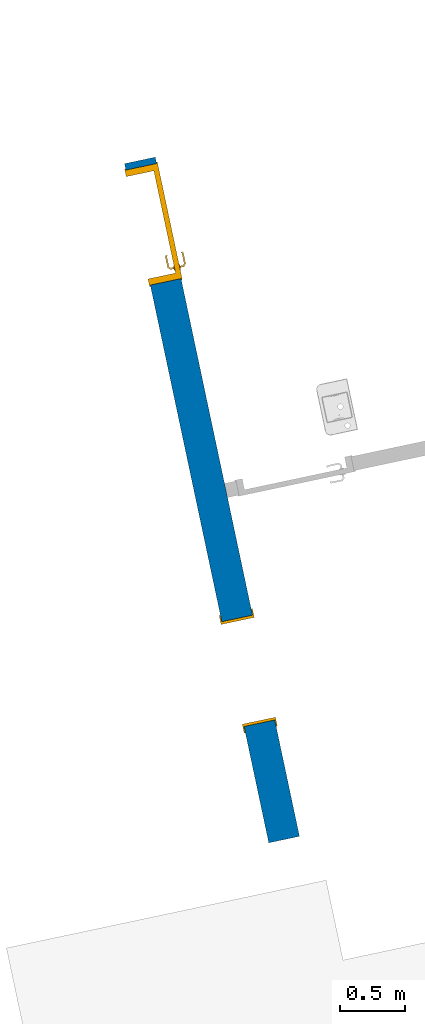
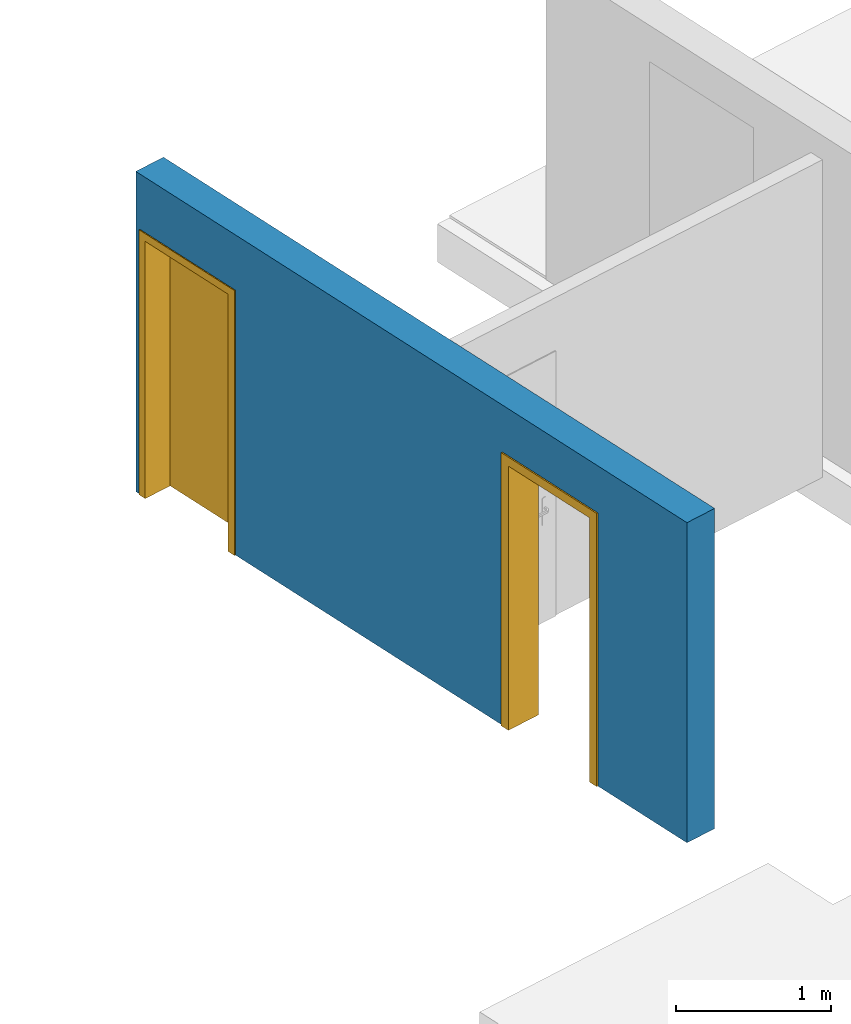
"""IFC2X3 building model written with IfcOpenShell, lengths in centimetres."""

from ifc_helpers import new_model, entity, si_unit, converted_unit, derived_unit, direction, frame, frame_2d, origin, place, context, subcontext, project, spatial, rectangle, extrude, faceted_brep, source, transform, mapped, material, layer, layer_set, type_object, type_shapes, element, fill, save


model = new_model("IFC2X3")

# Units and contexts
model_context = context("Model", 3, precision=0.001, world=origin(), true_north=direction((6.12303176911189e-17, 1.0)))
body_context = subcontext(model_context, "Body", "Model", "MODEL_VIEW")
ifc_project = project(units=[si_unit("LENGTHUNIT", "METRE", prefix="CENTI"), si_unit("AREAUNIT", "SQUARE_METRE"), si_unit("VOLUMEUNIT", "CUBIC_METRE"), converted_unit("PLANEANGLEUNIT", "DEGREE", entity("IfcRatioMeasure", 0.0174532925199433), si_unit("PLANEANGLEUNIT", "RADIAN"), dimensions=[0, 0, 0, 0, 0, 0, 0]), si_unit("MASSUNIT", "GRAM", prefix="KILO"), derived_unit("MASSDENSITYUNIT", [(si_unit("MASSUNIT", "GRAM", prefix="KILO"), 1), (si_unit("LENGTHUNIT", "METRE"), -3)]), derived_unit("IONCONCENTRATIONUNIT", [(si_unit("MASSUNIT", "GRAM", prefix="KILO"), 1), (si_unit("LENGTHUNIT", "METRE"), -3)]), derived_unit("MOMENTOFINERTIAUNIT", [(si_unit("LENGTHUNIT", "METRE"), 4)]), si_unit("TIMEUNIT", "SECOND"), si_unit("FREQUENCYUNIT", "HERTZ"), si_unit("THERMODYNAMICTEMPERATUREUNIT", "DEGREE_CELSIUS"), derived_unit("THERMALTRANSMITTANCEUNIT", [(si_unit("MASSUNIT", "GRAM", prefix="KILO"), 1), (si_unit("THERMODYNAMICTEMPERATUREUNIT", "KELVIN"), -1), (si_unit("TIMEUNIT", "SECOND"), -3)]), derived_unit("THERMALCONDUCTANCEUNIT", [(si_unit("MASSUNIT", "GRAM", prefix="KILO"), 1), (si_unit("THERMODYNAMICTEMPERATUREUNIT", "KELVIN"), -1), (si_unit("TIMEUNIT", "SECOND"), -3), (si_unit("LENGTHUNIT", "METRE"), 1)]), derived_unit("VOLUMETRICFLOWRATEUNIT", [(si_unit("LENGTHUNIT", "METRE"), 3), (si_unit("TIMEUNIT", "SECOND"), -1)]), derived_unit("MASSFLOWRATEUNIT", [(si_unit("MASSUNIT", "GRAM", prefix="KILO"), 1), (si_unit("TIMEUNIT", "SECOND"), -1)]), derived_unit("ROTATIONALFREQUENCYUNIT", [(si_unit("TIMEUNIT", "SECOND"), -1)]), si_unit("ELECTRICCURRENTUNIT", "AMPERE"), si_unit("ELECTRICVOLTAGEUNIT", "VOLT"), si_unit("POWERUNIT", "WATT"), si_unit("FORCEUNIT", "NEWTON", prefix="KILO"), si_unit("ILLUMINANCEUNIT", "LUX"), si_unit("LUMINOUSFLUXUNIT", "LUMEN"), si_unit("LUMINOUSINTENSITYUNIT", "CANDELA"), derived_unit("USERDEFINED", [(si_unit("MASSUNIT", "GRAM", prefix="KILO"), -1), (si_unit("LENGTHUNIT", "METRE"), -2), (si_unit("TIMEUNIT", "SECOND"), 3), (si_unit("LUMINOUSFLUXUNIT", "LUMEN"), 1)]), derived_unit("USERDEFINED", [(si_unit("MASSUNIT", "GRAM", prefix="KILO"), 1), (si_unit("TIMEUNIT", "SECOND"), -3), (si_unit("LENGTHUNIT", "METRE"), 3), (si_unit("ELECTRICCURRENTUNIT", "AMPERE"), -2)]), derived_unit("SOUNDPOWERUNIT", [(si_unit("MASSUNIT", "GRAM", prefix="KILO"), 1), (si_unit("TIMEUNIT", "SECOND"), -3), (si_unit("LENGTHUNIT", "METRE"), 2)]), derived_unit("SOUNDPRESSUREUNIT", [(si_unit("MASSUNIT", "GRAM", prefix="KILO"), 1), (si_unit("LENGTHUNIT", "METRE"), -1), (si_unit("TIMEUNIT", "SECOND"), -2)]), derived_unit("LINEARVELOCITYUNIT", [(si_unit("LENGTHUNIT", "METRE"), 1), (si_unit("TIMEUNIT", "SECOND"), -1)]), si_unit("PRESSUREUNIT", "PASCAL"), derived_unit("USERDEFINED", [(si_unit("MASSUNIT", "GRAM", prefix="KILO"), 1), (si_unit("LENGTHUNIT", "METRE"), -2), (si_unit("TIMEUNIT", "SECOND"), -2)]), derived_unit("LINEARFORCEUNIT", [(si_unit("MASSUNIT", "GRAM", prefix="KILO"), 1), (si_unit("TIMEUNIT", "SECOND"), -2)]), derived_unit("PLANARFORCEUNIT", [(si_unit("MASSUNIT", "GRAM", prefix="KILO"), 1), (si_unit("LENGTHUNIT", "METRE"), -1), (si_unit("TIMEUNIT", "SECOND"), -2)]), derived_unit("SPECIFICHEATCAPACITYUNIT", [(si_unit("THERMODYNAMICTEMPERATUREUNIT", "KELVIN"), -1), (si_unit("LENGTHUNIT", "METRE"), 2), (si_unit("TIMEUNIT", "SECOND"), -2)]), derived_unit("HEATINGVALUEUNIT", [(si_unit("LENGTHUNIT", "METRE"), 2), (si_unit("TIMEUNIT", "SECOND"), -2)]), derived_unit("VAPORPERMEABILITYUNIT", [(si_unit("LENGTHUNIT", "METRE"), -1), (si_unit("TIMEUNIT", "SECOND"), 1)]), derived_unit("DYNAMICVISCOSITYUNIT", [(si_unit("MASSUNIT", "GRAM", prefix="KILO"), 1), (si_unit("TIMEUNIT", "SECOND"), -1), (si_unit("LENGTHUNIT", "METRE"), -1)]), derived_unit("THERMALEXPANSIONCOEFFICIENTUNIT", [(si_unit("THERMODYNAMICTEMPERATUREUNIT", "KELVIN"), -1)]), derived_unit("MODULUSOFELASTICITYUNIT", [(si_unit("MASSUNIT", "GRAM", prefix="KILO"), 1), (si_unit("LENGTHUNIT", "METRE"), -1), (si_unit("TIMEUNIT", "SECOND"), -2)]), derived_unit("ISOTHERMALMOISTURECAPACITYUNIT", [(si_unit("LENGTHUNIT", "METRE"), 3), (si_unit("MASSUNIT", "GRAM", prefix="KILO"), -1)]), derived_unit("MOISTUREDIFFUSIVITYUNIT", [(si_unit("TIMEUNIT", "SECOND"), -1), (si_unit("LENGTHUNIT", "METRE"), 2)])], contexts=[model_context])

# Site, building, storey
site_placement = place(None, frame((14083.8920177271, -6853.25409548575, 6900.0), z_axis=(0.0, 0.0, 1.0), x_axis=(0.978188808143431, 0.207717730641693, 0.0)))
site = spatial("IfcSite", under=ifc_project, at=site_placement, Name="Surface", CompositionType="ELEMENT")
building_placement = place(site_placement, origin())
building = spatial("IfcBuilding", under=site, at=building_placement, CompositionType="ELEMENT")
storey_1_placement = place(building_placement, origin())
storey_1 = spatial("IfcBuildingStorey", under=building, at=storey_1_placement, Name="_Rez de chaussée Séjour", CompositionType="ELEMENT", Elevation=2.07727662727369e-10)

# Wall, openings
ifc_material_1 = material(Name="__ ENDUIT_Blanc")
ifc_layer_1 = layer(ifc_material_1, 2.0)
ifc_material_2 = material(Name="Béton, précoulé")
ifc_layer_2 = layer(ifc_material_2, 20.0)
ifc_layer_3 = layer(ifc_material_1, 2.0)
ifc_layer_set = layer_set([ifc_layer_1, ifc_layer_2, ifc_layer_3], Name="Mur de base:*BRIQUE 24 (20 + INT 2 + EXT 2) (enduit 2 faces)")
wall_type = type_object("IfcWallType", Name="Mur de base:*BRIQUE 24 (20 + INT 2 + EXT 2) (enduit 2 faces)", PredefinedType="STANDARD", material=ifc_layer_set)
wall_placement = place(storey_1_placement, frame((-7151.9551432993, 15413.9391445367, 17.0), z_axis=(0.0, 0.0, 1.0), x_axis=(0.0, -1.0, 0.0)))
wall = element("IfcWall", 1, at=wall_placement, inside=storey_1, type_object=wall_type, Name="Mur de base:*BRIQUE 24 (20 + INT 2 + EXT 2) (enduit 2 faces)", ObjectType="Mur de base:*BRIQUE 24 (20 + INT 2 + EXT 2) (enduit 2 faces)", context=body_context, shape_type="Brep", body=[
    faceted_brep([(531.266666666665, -12.0, 252.0), (0.0, -12.0, 252.0), (0.0, -12.0, 0.0), (5.0, -12.0, 0.0), (5.0, -12.0, 207.5), (95.0, -12.0, 207.5), (95.0, -12.0, 0.0), (358.266666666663, -12.0, 0.0), (358.266666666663, -12.0, 210.0), (440.266666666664, -12.0, 210.0), (440.266666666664, -12.0, 0.0), (531.266666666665, -12.0, 0.0), (0.0, 12.0, 252.0), (531.266666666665, 12.0, 252.0), (531.266666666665, 12.0, 0.0), (440.266666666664, 12.0, 0.0), (440.266666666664, 12.0, 210.0), (358.266666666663, 12.0, 210.0), (358.266666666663, 12.0, 0.0), (95.0, 12.0, 0.0), (95.0, 12.0, 207.5), (5.0, 12.0, 207.5), (5.0, 12.0, 0.0), (0.0, 12.0, 0.0)], [[[0, 1, 2, 3, 4, 5, 6, 7, 8, 9, 10, 11]], [[12, 13, 14, 15, 16, 17, 18, 19, 20, 21, 22, 23]], [[1, 0, 13, 12]], [[21, 4, 3, 22]], [[4, 21, 20, 5]], [[5, 20, 19, 6]], [[1, 12, 23, 2]], [[13, 0, 11, 14]], [[9, 16, 15, 10]], [[16, 9, 8, 17]], [[17, 8, 7, 18]], [[11, 10, 15, 14]], [[7, 6, 19, 18]], [[3, 2, 23, 22]]]),
])
opening_1_placement = place(wall_placement, frame((5.0, -12.0, 0.0)))
opening_1 = element("IfcOpeningElement", 2, at=opening_1_placement, cuts=wall, Name="*Porte_alveolaire:Pp 83 x 204:1", ObjectType="Opening", context=body_context, shape_type="SweptSolid", body=[
    extrude(rectangle(XDim=207.5, YDim=89.9999999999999, at=frame_2d((103.75, 45.0), x_axis=(1.0, 0.0))), frame((0.0, 0.0, 0.0), z_axis=(0.0, 1.0, 0.0), x_axis=(0.0, 0.0, 1.0)), (0.0, 0.0, 1.0), 24.0),
])
opening_2_placement = place(wall_placement, frame((358.266666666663, -12.0, 0.0)))
opening_2 = element("IfcOpeningElement", 3, at=opening_2_placement, cuts=wall, Name="Ouverture en rectangle:Ouverture en rectangle:1", ObjectType="Opening", context=body_context, shape_type="SweptSolid", body=[
    extrude(rectangle(XDim=209.999999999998, YDim=82.0, at=frame_2d((104.999999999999, 41.0), x_axis=(1.0, 0.0))), frame((0.0, 0.0, 0.0), z_axis=(0.0, 1.0, 0.0), x_axis=(0.0, 0.0, 1.0)), (0.0, 0.0, 1.0), 24.0),
])

# Storey
storey_2_placement = place(building_placement, frame((0.0, 0.0, 17.0)))
storey_2 = spatial("IfcBuildingStorey", under=building, at=storey_2_placement, Name="Rez de chaussée", CompositionType="ELEMENT", Elevation=17.0000000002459)

# Door
ifc_material_3 = material(Name="<Unnamed>")
door_style_1 = type_object("IfcDoorStyle", Name="*Porte_alveolaire:Pp 83 x 204", ConstructionType="NOTDEFINED", OperationType="NOTDEFINED", ParameterTakesPrecedence=False, Sizeable=False, material=ifc_material_3)
shared_shape_1 = source(origin(), body_context, "Body", "Brep", [
    faceted_brep([(8.7974701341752, 3.69999999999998, 89.2219559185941), (9.20252986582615, 3.69999999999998, 89.221955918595), (9.60000000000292, 3.69999999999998, 89.3000000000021), (9.60000000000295, 3.69999999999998, 90.699999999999), (9.20252986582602, 3.69999999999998, 90.7780440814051), (8.79747013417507, 3.69999999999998, 90.7780440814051), (8.39999999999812, 3.69999999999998, 90.699999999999), (8.39999999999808, 3.69999999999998, 89.2999999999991), (9.60000000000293, 5.94852045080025, 89.3000000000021), (9.60000000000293, 5.94852045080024, 90.699999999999), (9.20252986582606, 6.11315797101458, 90.7780440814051), (10.5838906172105, 7.49451872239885, 90.7780440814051), (10.4161093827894, 7.89957845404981, 90.7780440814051), (8.7974701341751, 6.28093920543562, 90.7780440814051), (19.5684749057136, 6.84673156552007, 90.7780440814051), (19.8548953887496, 7.1331520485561, 90.7780440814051), (19.0884689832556, 7.8995784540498, 90.7780440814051), (18.9206877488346, 7.49451872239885, 90.7780440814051), (8.39999999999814, 6.44557672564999, 90.699999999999), (8.39999999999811, 6.44557672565, 89.2999999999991), (8.7974701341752, 6.28093920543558, 89.2219559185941), (10.4161093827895, 7.89957845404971, 89.2219559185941), (10.5838906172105, 7.49451872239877, 89.221955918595), (9.20252986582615, 6.11315797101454, 89.221955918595), (19.8548953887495, 7.133152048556, 89.221955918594), (19.5684749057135, 6.84673156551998, 89.221955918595), (18.9206877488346, 7.49451872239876, 89.221955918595), (19.0884689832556, 7.89957845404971, 89.221955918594), (10.7485281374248, 7.09704858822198, 89.3000000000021), (10.7485281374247, 7.09704858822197, 90.699999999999), (10.2514718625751, 8.29704858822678, 90.699999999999), (10.2514718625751, 8.2970485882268, 89.2999999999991), (14.7522879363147, 7.09704858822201, 89.300000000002), (18.7560502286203, 7.09704858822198, 89.300000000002), (18.7560502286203, 7.09704858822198, 90.699999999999), (14.7522891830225, 7.09704858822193, 90.699999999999), (14.7522891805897, 7.71249275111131, 90.7878116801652), (19.25310650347, 8.29704858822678, 90.699999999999), (15.2600577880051, 8.29704858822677, 90.699999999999), (19.25310650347, 8.2970485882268, 89.2999999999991), (14.2445205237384, 8.29704858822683, 89.2999999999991), (14.7522892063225, 7.71249274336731, 89.2121883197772), (19.287421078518, 6.56567773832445, 89.300000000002), (20.1359492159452, 7.41420587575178, 89.2999999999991), (20.1359492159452, 7.41420587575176, 90.699999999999), (19.287421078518, 6.56567773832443, 90.699999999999)], [[[0, 1, 2, 3, 4, 5, 6, 7]], [[3, 2, 8, 9]], [[9, 10, 4, 3]], [[10, 11, 12, 13, 5, 4]], [[14, 15, 16, 17]], [[13, 18, 6, 5]], [[7, 6, 18, 19]], [[19, 20, 0, 7]], [[20, 21, 22, 23, 1, 0]], [[24, 25, 26, 27]], [[23, 8, 2, 1]], [[9, 8, 28, 29]], [[29, 11, 10, 9]], [[12, 30, 18, 13]], [[19, 18, 30, 31]], [[31, 21, 20, 19]], [[22, 28, 8, 23]], [[28, 32, 33, 34, 35, 29]], [[11, 35, 36]], [[16, 37, 38]], [[30, 12, 38]], [[38, 12, 36]], [[36, 35, 17]], [[17, 16, 36]], [[35, 11, 29]], [[34, 17, 35]], [[11, 36, 12]], [[38, 36, 16]], [[31, 30, 38, 37, 39, 40]], [[40, 41, 21]], [[41, 40, 27]], [[21, 31, 40]], [[39, 27, 40]], [[41, 32, 22]], [[22, 21, 41]], [[26, 32, 41]], [[28, 22, 32]], [[32, 26, 33]], [[26, 41, 27]], [[42, 25, 24, 43, 44, 15, 14, 45]], [[34, 33, 42, 45]], [[45, 14, 17, 34]], [[15, 44, 37, 16]], [[39, 37, 44, 43]], [[43, 24, 27, 39]], [[25, 42, 33, 26]]]),
    faceted_brep([(8.79747013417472, -1.30000000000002, 90.7780440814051), (9.20252986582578, -1.30000000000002, 90.7780440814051), (9.60000000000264, -1.30000000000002, 90.6999999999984), (9.60000000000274, -1.30000000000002, 89.3000000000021), (9.20252986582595, -1.30000000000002, 89.221955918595), (8.79747013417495, -1.30000000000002, 89.221955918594), (8.39999999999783, -1.30000000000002, 89.2999999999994), (8.39999999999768, -1.30000000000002, 90.699999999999), (8.39999999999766, -4.06509507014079, 90.6999999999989), (8.79747013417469, -3.9004575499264, 90.7780440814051), (10.402358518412, -5.50534593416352, 90.7780440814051), (10.570139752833, -5.10028620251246, 90.7780440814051), (9.20252986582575, -3.73267631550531, 90.7780440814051), (19.852181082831, -4.73891952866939, 90.778044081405), (19.5657605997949, -4.45249904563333, 90.778044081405), (18.9179734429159, -5.10028620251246, 90.778044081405), (19.085754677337, -5.50534593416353, 90.778044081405), (9.60000000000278, -3.56803879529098, 90.699999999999), (9.60000000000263, -3.56803879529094, 89.3000000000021), (9.20252986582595, -3.73267631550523, 89.221955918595), (10.5701397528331, -5.10028620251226, 89.221955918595), (10.4023585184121, -5.50534593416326, 89.221955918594), (8.79747013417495, -3.90045754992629, 89.221955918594), (19.5657605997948, -4.45249904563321, 89.221955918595), (19.8521810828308, -4.73891952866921, 89.221955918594), (19.0857546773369, -5.50534593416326, 89.221955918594), (18.9179734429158, -5.10028620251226, 89.221955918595), (8.39999999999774, -4.06509507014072, 89.2999999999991), (10.2377209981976, -5.90281606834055, 90.6999999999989), (10.7347772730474, -4.70281606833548, 90.699999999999), (10.7347772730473, -4.70281606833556, 89.3000000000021), (10.2377209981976, -5.90281606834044, 89.2999999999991), (14.2307697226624, -5.90281606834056, 90.6999999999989), (14.7440566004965, -5.31828027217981, 90.7878115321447), (19.2503921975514, -5.90281606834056, 90.6999999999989), (14.7440565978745, -4.70281606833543, 90.699999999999), (18.7533359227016, -4.70281606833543, 90.6999999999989), (18.7533359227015, -4.70281606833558, 89.300000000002), (14.7440563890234, -4.70281606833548, 89.3000000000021), (14.7440565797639, -5.31828027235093, 89.2121884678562), (19.2503921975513, -5.90281606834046, 89.2999999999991), (15.2573436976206, -5.90281606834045, 89.2999999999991), (19.2847067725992, -4.17144521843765, 90.6999999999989), (20.1332349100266, -5.01997335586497, 90.6999999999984), (20.1332349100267, -5.019973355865, 89.2999999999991), (19.2847067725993, -4.17144521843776, 89.3000000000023)], [[[0, 1, 2, 3, 4, 5, 6, 7]], [[8, 9, 0, 7]], [[9, 10, 11, 12, 1, 0]], [[13, 14, 15, 16]], [[12, 17, 2, 1]], [[3, 2, 17, 18]], [[18, 19, 4, 3]], [[19, 20, 21, 22, 5, 4]], [[23, 24, 25, 26]], [[22, 27, 6, 5]], [[7, 6, 27, 8]], [[28, 10, 9, 8]], [[11, 29, 17, 12]], [[18, 17, 29, 30]], [[30, 20, 19, 18]], [[21, 31, 27, 22]], [[8, 27, 31, 28]], [[32, 33, 10]], [[33, 32, 16]], [[10, 28, 32]], [[34, 16, 32]], [[33, 35, 11]], [[11, 10, 33]], [[15, 35, 33]], [[29, 11, 35]], [[35, 15, 36]], [[15, 33, 16]], [[30, 29, 35, 36, 37, 38]], [[20, 38, 39]], [[25, 40, 41]], [[31, 21, 41]], [[41, 21, 39]], [[39, 38, 26]], [[26, 25, 39]], [[38, 20, 30]], [[37, 26, 38]], [[20, 39, 21]], [[41, 39, 25]], [[28, 31, 41, 40, 34, 32]], [[42, 14, 13, 43, 44, 24, 23, 45]], [[43, 13, 16, 34]], [[14, 42, 36, 15]], [[37, 36, 42, 45]], [[45, 23, 26, 37]], [[24, 44, 40, 25]], [[34, 40, 44, 43]]]),
    faceted_brep([(10.03527618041, 3.19999999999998, 76.6003983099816), (11.0, 3.19999999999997, 77.0), (11.0, 3.19999999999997, 98.0), (10.03527618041, 3.19999999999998, 98.3996016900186), (9.0, 3.19999999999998, 98.5358983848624), (7.96472381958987, 3.19999999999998, 98.3996016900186), (7.0, 3.19999999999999, 98.0), (7.0, 3.19999999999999, 77.0), (7.96472381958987, 3.19999999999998, 76.6003983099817), (9.0, 3.19999999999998, 76.4641016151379), (10.03527618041, 3.69999999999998, 98.3996016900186), (11.0, 3.69999999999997, 98.0), (11.0, 3.69999999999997, 77.0), (10.03527618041, 3.69999999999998, 76.6003983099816), (9.0, 3.69999999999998, 76.4641016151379), (7.96472381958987, 3.69999999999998, 76.6003983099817), (7.0, 3.69999999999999, 77.0), (7.0, 3.69999999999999, 98.0), (7.96472381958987, 3.69999999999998, 98.3996016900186), (9.0, 3.69999999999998, 98.5358983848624)], [[[0, 1, 2, 3, 4, 5, 6, 7, 8, 9]], [[10, 11, 12, 13, 14, 15, 16, 17, 18, 19]], [[11, 10, 3, 2]], [[3, 10, 19, 4]], [[19, 18, 5, 4]], [[18, 17, 6, 5]], [[7, 6, 17, 16]], [[16, 15, 8, 7]], [[8, 15, 14, 9]], [[14, 13, 0, 9]], [[13, 12, 1, 0]], [[2, 1, 12, 11]]]),
    faceted_brep([(10.03527618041, -1.30000000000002, 76.6003983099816), (11.0, -1.30000000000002, 77.0), (11.0, -1.30000000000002, 98.0), (10.03527618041, -1.30000000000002, 98.3996016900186), (9.0, -1.30000000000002, 98.5358983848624), (7.96472381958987, -1.30000000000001, 98.3996016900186), (7.0, -1.30000000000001, 98.0), (7.0, -1.30000000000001, 77.0), (7.96472381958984, -1.30000000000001, 76.6003983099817), (9.0, -1.30000000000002, 76.4641016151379), (10.03527618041, -0.800000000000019, 98.3996016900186), (11.0, -0.800000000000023, 98.0), (11.0, -0.800000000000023, 77.0), (10.03527618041, -0.800000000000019, 76.6003983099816), (9.0, -0.800000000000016, 76.4641016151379), (7.96472381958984, -0.800000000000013, 76.6003983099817), (7.0, -0.800000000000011, 77.0), (7.0, -0.800000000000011, 98.0), (7.96472381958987, -0.800000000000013, 98.3996016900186), (9.0, -0.800000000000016, 98.5358983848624)], [[[0, 1, 2, 3, 4, 5, 6, 7, 8, 9]], [[10, 11, 12, 13, 14, 15, 16, 17, 18, 19]], [[16, 15, 8, 7]], [[8, 15, 14, 9]], [[14, 13, 0, 9]], [[13, 12, 1, 0]], [[2, 1, 12, 11]], [[11, 10, 3, 2]], [[3, 10, 19, 4]], [[19, 18, 5, 4]], [[18, 17, 6, 5]], [[7, 6, 17, 16]]]),
    faceted_brep([(0.0, 0.0, 0.0), (0.0, 24.0, 0.0), (-1.0, 24.0, 0.0), (-1.0, 24.8000000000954, 0.0), (5.0, 24.8000000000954, 0.0), (5.0, 3.2, 0.0), (3.49999999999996, 3.2, 0.0), (3.49999999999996, -0.800000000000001, 0.0), (-1.0, -0.800000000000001, 0.0), (-1.0, 0.0, 0.0), (0.0, 0.0, 207.5), (0.0, 24.0, 207.5), (90.0, 24.0, 207.5), (90.0, 24.0, 0.0), (91.0, 24.0, 0.0), (91.0, 24.0, 208.5), (-1.0, 24.0, 208.5), (-1.0, 24.8000000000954, 208.5), (91.0, 24.8000000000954, 208.5), (91.0, 24.8000000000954, 0.0), (85.0, 24.8000000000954, 0.0), (85.0, 24.8000000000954, 202.500000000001), (5.0, 24.8000000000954, 202.500000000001), (5.0, 3.2, 202.500000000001), (85.0, 3.2, 202.500000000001), (85.0, 3.2, 0.0), (86.5, 3.2, 0.0), (86.5, 3.2, 204.0), (3.49999999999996, 3.2, 204.0), (3.49999999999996, -0.800000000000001, 204.0), (86.5, -0.800000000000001, 204.0), (86.5, -0.800000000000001, 0.0), (91.0, -0.800000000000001, 0.0), (91.0, -0.800000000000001, 208.5), (-1.0, -0.800000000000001, 208.5), (-1.0, 0.0, 208.5), (91.0, 0.0, 208.5), (91.0, 0.0, 0.0), (90.0, 0.0, 0.0), (90.0, 0.0, 207.5)], [[[0, 1, 2, 3, 4, 5, 6, 7, 8, 9]], [[1, 0, 10, 11]], [[2, 1, 11, 12, 13, 14, 15, 16]], [[3, 2, 16, 17]], [[4, 3, 17, 18, 19, 20, 21, 22]], [[5, 4, 22, 23]], [[6, 5, 23, 24, 25, 26, 27, 28]], [[7, 6, 28, 29]], [[8, 7, 29, 30, 31, 32, 33, 34]], [[9, 8, 34, 35]], [[0, 9, 35, 36, 37, 38, 39, 10]], [[12, 39, 38, 13]], [[38, 37, 32, 31, 26, 25, 20, 19, 14, 13]], [[18, 15, 14, 19]], [[24, 21, 20, 25]], [[30, 27, 26, 31]], [[36, 33, 32, 37]], [[11, 10, 39, 12]], [[17, 16, 15, 18]], [[23, 22, 21, 24]], [[29, 28, 27, 30]], [[35, 34, 33, 36]]]),
    faceted_brep([(3.49999999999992, -0.799999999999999, 204.0), (3.49999999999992, -0.799999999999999, 0.0), (86.5, -0.799999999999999, 0.0), (86.5, -0.799999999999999, 204.0), (3.49999999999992, 3.2, 204.0), (86.5, 3.2, 204.0), (86.5, 3.2, 0.0), (3.49999999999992, 3.2, 0.0)], [[[0, 1, 2, 3]], [[4, 5, 6, 7]], [[1, 0, 4, 7]], [[2, 1, 7, 6]], [[3, 2, 6, 5]], [[0, 3, 5, 4]]]),
])
type_shapes(door_style_1, [shared_shape_1])
door_1_placement = place(opening_1_placement, frame((90.0, 24.0, 0.0), z_axis=(0.0, 0.0, 1.0), x_axis=(-1.0, 0.0, 0.0)))
door_1 = element("IfcDoor", 4, at=door_1_placement, inside=storey_2, type_object=door_style_1, material=ifc_material_3, Name="*Porte_alveolaire:Pp 83 x 204", ObjectType="*Porte_alveolaire:Pp 83 x 204", OverallHeight=207.5, OverallWidth=90.0000000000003, context=body_context, shape_type="MappedRepresentation", body=[
    mapped(shared_shape_1, transform((0.0, 0.0, 0.0), scale=1.0)),
])

fill(opening_1, door_1)

ifc_material_4 = material(Name="Bois - Chêne")
door_style_2 = type_object("IfcDoorStyle", Name="Ouverture en rectangle:Ouverture en rectangle", ConstructionType="NOTDEFINED", OperationType="NOTDEFINED", ParameterTakesPrecedence=False, Sizeable=False, material=ifc_material_4)
shared_shape_2 = source(origin(), body_context, "Body", "Brep", [
    faceted_brep([(0.0, 0.0, 0.0), (0.0, 24.0, 0.0), (-5.0, 24.0, 0.0), (-5.0, 25.0, 0.0), (2.0, 25.0, 0.0), (2.0, -1.0, 0.0), (-5.0, -1.0, 0.0), (-5.0, 0.0, 0.0), (0.0, 0.0, 210.0), (0.0, 24.0, 210.0), (82.0, 24.0, 210.0), (82.0, 24.0, 0.0), (87.0, 24.0, 0.0), (87.0, 24.0, 215.0), (-5.0, 24.0, 215.0), (-5.0, 25.0, 215.0), (87.0, 25.0, 215.0), (87.0, 25.0, 0.0), (80.0, 25.0, 0.0), (80.0, 25.0, 208.0), (2.0, 25.0, 208.0), (2.0, -1.0, 208.0), (80.0, -1.0, 208.0), (80.0, -1.0, 0.0), (87.0, -1.0, 0.0), (87.0, -1.0, 215.0), (-5.0, -1.0, 215.0), (-5.0, 0.0, 215.0), (87.0, 0.0, 215.0), (87.0, 0.0, 0.0), (82.0, 0.0, 0.0), (82.0, 0.0, 210.0)], [[[0, 1, 2, 3, 4, 5, 6, 7]], [[1, 0, 8, 9]], [[2, 1, 9, 10, 11, 12, 13, 14]], [[3, 2, 14, 15]], [[4, 3, 15, 16, 17, 18, 19, 20]], [[5, 4, 20, 21]], [[6, 5, 21, 22, 23, 24, 25, 26]], [[7, 6, 26, 27]], [[0, 7, 27, 28, 29, 30, 31, 8]], [[10, 31, 30, 11]], [[30, 29, 24, 23, 18, 17, 12, 11]], [[16, 13, 12, 17]], [[22, 19, 18, 23]], [[28, 25, 24, 29]], [[9, 8, 31, 10]], [[15, 14, 13, 16]], [[21, 20, 19, 22]], [[27, 26, 25, 28]]]),
])
type_shapes(door_style_2, [shared_shape_2])
door_2_placement = place(opening_2_placement, origin())
door_2 = element("IfcDoor", 5, at=door_2_placement, inside=storey_1, type_object=door_style_2, material=ifc_material_4, Name="Ouverture en rectangle:Ouverture en rectangle", ObjectType="Ouverture en rectangle:Ouverture en rectangle", OverallHeight=209.999999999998, OverallWidth=82.0000000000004, context=body_context, shape_type="MappedRepresentation", body=[
    mapped(shared_shape_2, transform((0.0, 0.0, 0.0), scale=1.0)),
])

fill(opening_2, door_2)

save(model, "model.ifc")
